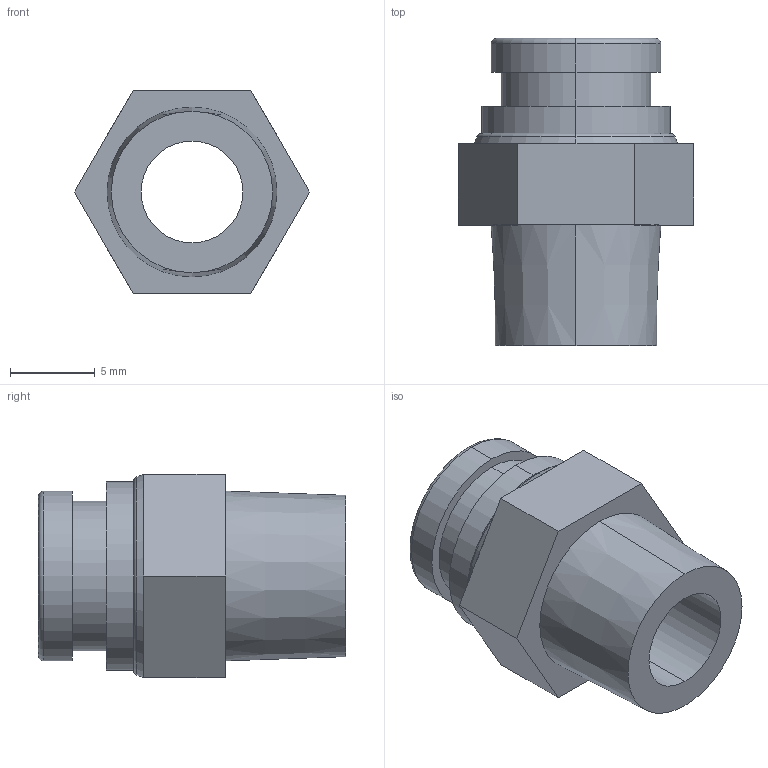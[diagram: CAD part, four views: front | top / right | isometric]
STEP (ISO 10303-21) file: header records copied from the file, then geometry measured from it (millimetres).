
FILE_DESCRIPTION (( 'STEP AP214' ), '1' );
FILE_NAME ('KQG2H06-01S.step.step', '2022-04-28T06:37:10', ( '' ), ( '' ), 'SwSTEP 2.0', 'SolidWorks 2021', '' );
FILE_SCHEMA (( 'AUTOMOTIVE_DESIGN' ));
Length unit declared in the file: millimetre
Products named in the file (2): KQG2H06-01S.step; KQG2H06-01S.step_KQG2 Male Connect_06-01
Assembly tree (1 placements, depth 2):
  KQG2H06-01S.step
    KQG2H06-01S.step_KQG2 Male Connect_06-01
Bounding box: 13.86 x 18.1 x 12 mm (x, y, z)
Volume: 1102.9 mm3; surface area: 1164.2 mm2
Topology: 1 solids, 1 shells, 39 faces, 82 edges, 50 vertices
Faces by surface type: plane 19, cylinder 10, torus 6, cone 4
Entity records: 1118 total; most frequent: DIRECTION 212, CARTESIAN_POINT 175, ORIENTED_EDGE 164, AXIS2_PLACEMENT_3D 87, EDGE_CURVE 82, VERTEX_POINT 50, EDGE_LOOP 46, CIRCLE 44
